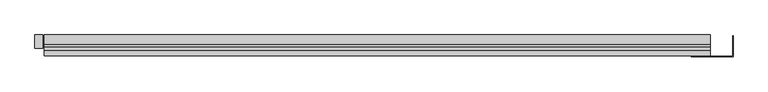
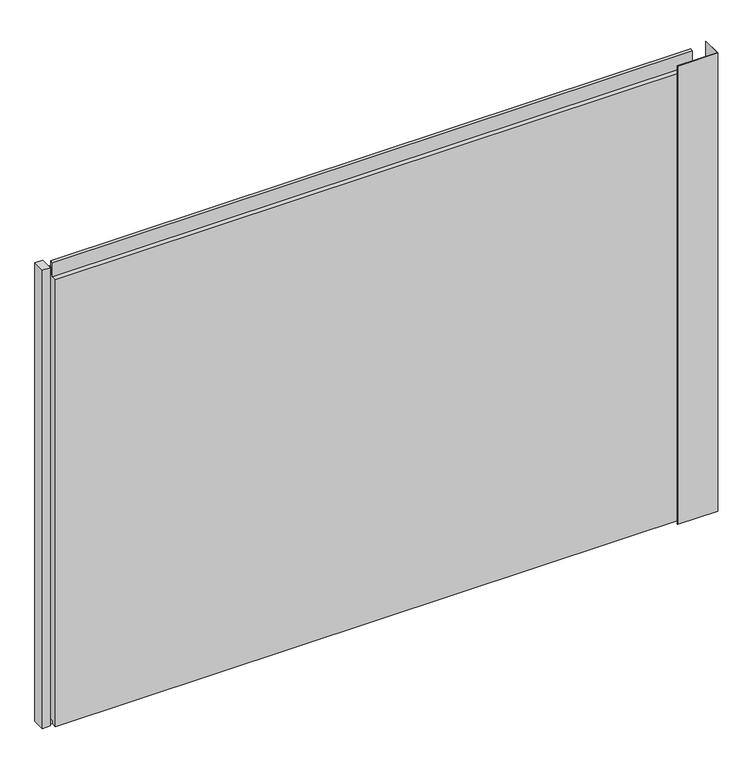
"""IFC4 building model written with IfcOpenShell, lengths in millimetres: plate geometry, Trimo_Qbiss Screen_Normal Panel-HORIZONTAL : HR - B-F."""

from ifc_helpers import new_model, si_unit, frame, origin, place, context, project, spatial, polyline, outline, extrude, source, transform, mapped, element, save


def plate_22ea917c(model_context):
    return source(origin(), model_context, "Body", "SweptSolid", [
        extrude(outline(polyline([(702.7, 49.0), (801.0, 49.0), (801.0, 98.3), (801.8, 98.3), (801.8, 48.2), (702.7, 48.2), (702.7, 49.0)])), frame((0.0, 0.0, -1.0), z_axis=(0.0, 0.0, 1.0), x_axis=(1.0, 0.0, 0.0)), (0.0, 0.0, 1.0), 1200.0),
        extrude(outline(polyline([(-840.5, 67.8978162), (-859.5, 67.8978162), (-859.5, 100.0), (-840.5, 100.0), (-840.5, 67.8978162)])), frame((0.0, 0.0, -1.0), z_axis=(0.0, 0.0, 1.0), x_axis=(1.0, 0.0, 0.0)), (0.0, 0.0, 1.0), 1200.0),
        extrude(outline(polyline([(748.0, 76.0), (748.0, 71.0), (-837.5, 71.0), (-837.5, 76.0), (748.0, 76.0)])), frame((0.0, 0.0, 1178.0), z_axis=(0.0, 0.0, 1.0), x_axis=(1.0, 0.0, 0.0)), (0.0, 0.0, 1.0), 21.0),
        extrude(outline(polyline([(71.0, 1177.0), (100.0, 1177.0), (100.0, 0.0), (72.0, 0.0), (72.0, 15.5), (62.0, 15.5), (62.0, 7.0), (50.0, 7.0), (50.0, 1177.0), (63.0, 1177.0), (63.0, 1214.5), (71.0, 1214.5), (71.0, 1177.0)])), frame((-837.5, 0.0, 0.0), z_axis=(1.0, 0.0, 0.0), x_axis=(0.0, 1.0, 0.0)), (0.0, 0.0, 1.0), 1585.5),
    ])


if __name__ == "__main__":
    model = new_model("IFC4")
    model_context = context("Model", 3, world=origin())
    ifc_project = project(units=[si_unit("LENGTHUNIT", "METRE", prefix="MILLI")], contexts=[model_context])
    site = spatial("IfcSite", under=ifc_project)
    building = spatial("IfcBuilding", under=site)
    placement = place(None, origin())
    plate_shape = plate_22ea917c(model_context)
    element("IfcPlate", 1, ObjectType="Trimo_Qbiss Screen_Normal Panel-HORIZONTAL : HR - B-F", at=placement, inside=building, context=model_context, shape_type="MappedRepresentation", body=[
        mapped(plate_shape, transform((0.0, 0.0, 0.0), x_axis=(1.0, 0.0, 0.0), y_axis=(0.0, 1.0, 0.0), z_axis=(0.0, 0.0, 1.0))),
    ])
    save(model, "model.ifc")
